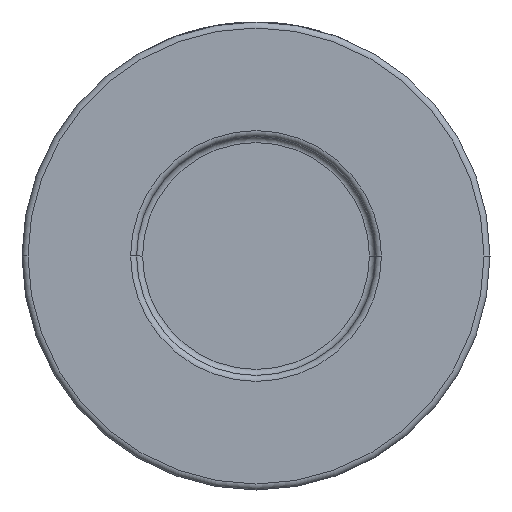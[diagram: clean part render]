
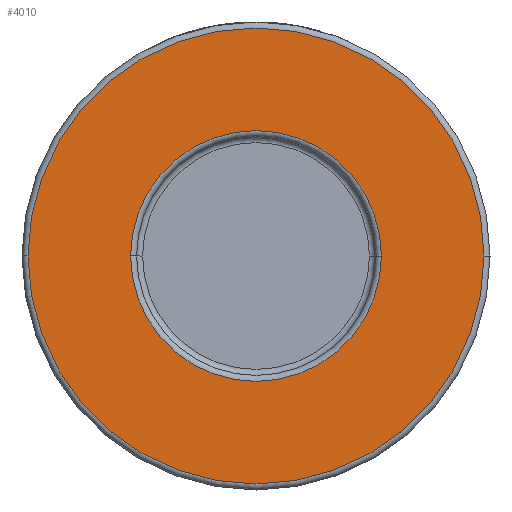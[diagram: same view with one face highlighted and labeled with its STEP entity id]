
A CAD part, front view. The second image highlights one B-rep face of the part: STEP entity #4010.
In plain terms, the highlighted planar face has unit normal (0, -1, 0).
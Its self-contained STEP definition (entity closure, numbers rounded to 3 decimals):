
#63 = VERTEX_POINT ( 'NONE', #1465 ) ;
#223 = EDGE_LOOP ( 'NONE', ( #2976, #3009 ) ) ;
#261 = ORIENTED_EDGE ( 'NONE', *, *, #1280, .T. ) ;
#309 = AXIS2_PLACEMENT_3D ( 'NONE', #4389, #1215, #801 ) ;
#336 = EDGE_CURVE ( 'NONE', #1863, #1839, #4143, .T. ) ;
#549 = CIRCLE ( 'NONE', #2615, 20.9 ) ;
#565 = CARTESIAN_POINT ( 'NONE',  ( -20.9, -19., 0. ) ) ;
#614 = CARTESIAN_POINT ( 'NONE',  ( 39., -19., 0. ) ) ;
#801 = DIRECTION ( 'NONE',  ( 1., 0., 0. ) ) ;
#900 = FACE_OUTER_BOUND ( 'NONE', #1230, .T. ) ;
#926 = AXIS2_PLACEMENT_3D ( 'NONE', #614, #2650, #2367 ) ;
#999 = VERTEX_POINT ( 'NONE', #565 ) ;
#1207 = EDGE_CURVE ( 'NONE', #999, #63, #549, .T. ) ;
#1215 = DIRECTION ( 'NONE',  ( 0., -1., 0. ) ) ;
#1230 = EDGE_LOOP ( 'NONE', ( #261, #3031 ) ) ;
#1280 = EDGE_CURVE ( 'NONE', #1839, #1863, #3488, .T. ) ;
#1465 = CARTESIAN_POINT ( 'NONE',  ( 20.9, -19., 0. ) ) ;
#1691 = CARTESIAN_POINT ( 'NONE',  ( 0., -19., 0. ) ) ;
#1704 = CARTESIAN_POINT ( 'NONE',  ( 38., -19., 0. ) ) ;
#1728 = CIRCLE ( 'NONE', #4005, 20.9 ) ;
#1814 = CARTESIAN_POINT ( 'NONE',  ( -38., -19., 0. ) ) ;
#1839 = VERTEX_POINT ( 'NONE', #1704 ) ;
#1863 = VERTEX_POINT ( 'NONE', #1814 ) ;
#1885 = DIRECTION ( 'NONE',  ( 1., 0., 0. ) ) ;
#2367 = DIRECTION ( 'NONE',  ( 1., 0., 0. ) ) ;
#2420 = DIRECTION ( 'NONE',  ( 1., 0., 0. ) ) ;
#2469 = DIRECTION ( 'NONE',  ( 0., -1., 0. ) ) ;
#2615 = AXIS2_PLACEMENT_3D ( 'NONE', #1691, #2771, #3095 ) ;
#2650 = DIRECTION ( 'NONE',  ( 0., -1., 0. ) ) ;
#2714 = FACE_BOUND ( 'NONE', #223, .T. ) ;
#2771 = DIRECTION ( 'NONE',  ( 0., 1., 0. ) ) ;
#2950 = DIRECTION ( 'NONE',  ( 0., 1., 0. ) ) ;
#2976 = ORIENTED_EDGE ( 'NONE', *, *, #4213, .T. ) ;
#3009 = ORIENTED_EDGE ( 'NONE', *, *, #1207, .T. ) ;
#3031 = ORIENTED_EDGE ( 'NONE', *, *, #336, .T. ) ;
#3095 = DIRECTION ( 'NONE',  ( 1., 0., 0. ) ) ;
#3123 = AXIS2_PLACEMENT_3D ( 'NONE', #4211, #2469, #2420 ) ;
#3488 = CIRCLE ( 'NONE', #3123, 38. ) ;
#3960 = CARTESIAN_POINT ( 'NONE',  ( 0., -19., 0. ) ) ;
#4005 = AXIS2_PLACEMENT_3D ( 'NONE', #3960, #2950, #1885 ) ;
#4010 = ADVANCED_FACE ( 'NONE', ( #2714, #900 ), #4118, .T. ) ;
#4118 = PLANE ( 'NONE',  #926 ) ;
#4143 = CIRCLE ( 'NONE', #309, 38. ) ;
#4211 = CARTESIAN_POINT ( 'NONE',  ( 0., -19., 0. ) ) ;
#4213 = EDGE_CURVE ( 'NONE', #63, #999, #1728, .T. ) ;
#4389 = CARTESIAN_POINT ( 'NONE',  ( 0., -19., 0. ) ) ;
